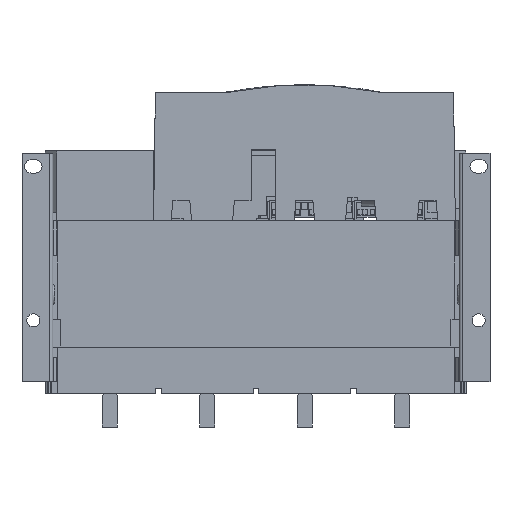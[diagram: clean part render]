
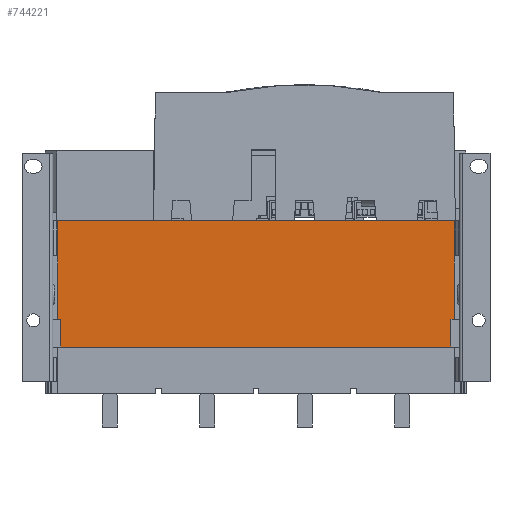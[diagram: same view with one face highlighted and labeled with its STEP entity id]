
A CAD part, front view. The second image highlights one B-rep face of the part: STEP entity #744221.
In plain terms, the highlighted planar face has unit normal (0, -1, 0).
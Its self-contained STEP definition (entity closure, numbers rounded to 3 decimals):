
#740176=CARTESIAN_POINT(' ',(116.711,37.788,272.075));
#740177=VERTEX_POINT(' ',#740176);
#740191=CARTESIAN_POINT(' ',(502.711,37.788,272.075));
#740196=DIRECTION(' ',(-1.,0.,0.));
#740201=VECTOR(' ',#740196,1.);
#740206=LINE('',#740191,#740201);
#740211=CARTESIAN_POINT(' ',(502.711,37.788,272.075));
#740212=VERTEX_POINT(' ',#740211);
#740216=EDGE_CURVE(' ',#740212,#740177,#740206,.T.);
#743736=CARTESIAN_POINT(' ',(116.711,37.788,176.075));
#743737=VERTEX_POINT(' ',#743736);
#743751=CARTESIAN_POINT(' ',(116.711,37.788,272.075));
#743756=DIRECTION(' ',(0.,0.,-1.));
#743761=VECTOR(' ',#743756,1.);
#743766=LINE('',#743751,#743761);
#743771=EDGE_CURVE(' ',#740177,#743737,#743766,.T.);
#743971=DIRECTION(' ',(-0.,-1.,-0.));
#743976=CARTESIAN_POINT(' ',(116.711,37.788,272.075));
#743981=DIRECTION(' ',(0.,0.,-1.));
#743986=AXIS2_PLACEMENT_3D(' ',#743976,#743971,#743981);
#743991=PLANE('',#743986);
#743996=CARTESIAN_POINT(' ',(502.711,37.788,176.075));
#744001=DIRECTION(' ',(-1.,0.,0.));
#744006=VECTOR(' ',#744001,1.);
#744011=LINE('',#743996,#744006);
#744016=CARTESIAN_POINT(' ',(502.711,37.788,176.075));
#744017=VERTEX_POINT(' ',#744016);
#744021=CARTESIAN_POINT(' ',(499.711,37.788,176.075));
#744022=VERTEX_POINT(' ',#744021);
#744026=EDGE_CURVE(' ',#744017,#744022,#744011,.T.);
#744031=ORIENTED_EDGE(' ',*,*,#744026,.F.);
#744036=CARTESIAN_POINT(' ',(502.711,37.788,272.075));
#744041=DIRECTION(' ',(0.,0.,-1.));
#744046=VECTOR(' ',#744041,1.);
#744051=LINE('',#744036,#744046);
#744056=EDGE_CURVE(' ',#740212,#744017,#744051,.T.);
#744061=ORIENTED_EDGE(' ',*,*,#744056,.F.);
#744066=ORIENTED_EDGE(' ',*,*,#740216,.T.);
#744071=ORIENTED_EDGE(' ',*,*,#743771,.T.);
#744076=CARTESIAN_POINT(' ',(119.711,37.788,176.075));
#744081=DIRECTION(' ',(-1.,0.,0.));
#744086=VECTOR(' ',#744081,1.);
#744091=LINE('',#744076,#744086);
#744096=CARTESIAN_POINT(' ',(119.711,37.788,176.075));
#744097=VERTEX_POINT(' ',#744096);
#744101=EDGE_CURVE(' ',#744097,#743737,#744091,.T.);
#744106=ORIENTED_EDGE(' ',*,*,#744101,.F.);
#744111=CARTESIAN_POINT(' ',(119.711,37.788,149.075));
#744116=DIRECTION(' ',(0.,0.,1.));
#744121=VECTOR(' ',#744116,1.);
#744126=LINE('',#744111,#744121);
#744131=CARTESIAN_POINT(' ',(119.711,37.788,149.075));
#744132=VERTEX_POINT(' ',#744131);
#744136=EDGE_CURVE(' ',#744132,#744097,#744126,.T.);
#744141=ORIENTED_EDGE(' ',*,*,#744136,.F.);
#744146=CARTESIAN_POINT(' ',(499.711,37.788,149.075));
#744151=DIRECTION(' ',(-1.,0.,0.));
#744156=VECTOR(' ',#744151,1.);
#744161=LINE('',#744146,#744156);
#744166=CARTESIAN_POINT(' ',(499.711,37.788,149.075));
#744167=VERTEX_POINT(' ',#744166);
#744171=EDGE_CURVE(' ',#744167,#744132,#744161,.T.);
#744176=ORIENTED_EDGE(' ',*,*,#744171,.F.);
#744181=CARTESIAN_POINT(' ',(499.711,37.788,176.075));
#744186=DIRECTION(' ',(0.,0.,-1.));
#744191=VECTOR(' ',#744186,1.);
#744196=LINE('',#744181,#744191);
#744201=EDGE_CURVE(' ',#744022,#744167,#744196,.T.);
#744206=ORIENTED_EDGE(' ',*,*,#744201,.F.);
#744211=EDGE_LOOP(' ',(#744031,#744061,#744066,#744071,#744106,#744141,#744176,#744206));
#744216=FACE_OUTER_BOUND(' ',#744211,.T.);
#744221=ADVANCED_FACE('NONE',(#744216),#743991,.T.);
